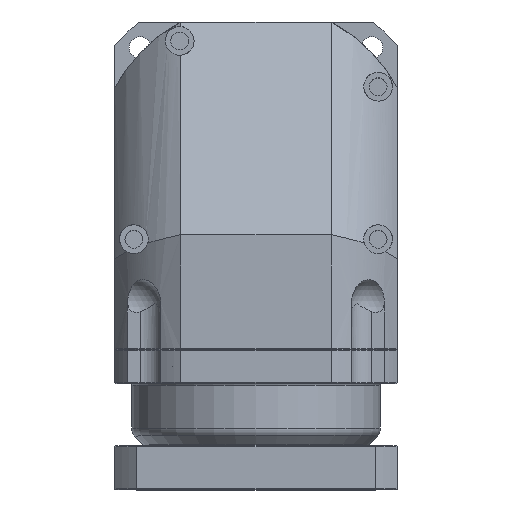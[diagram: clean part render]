
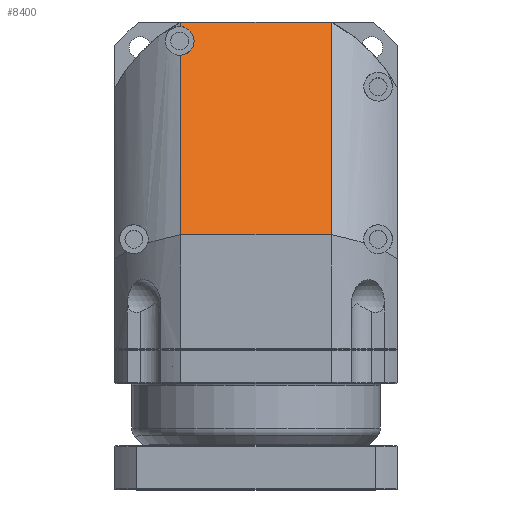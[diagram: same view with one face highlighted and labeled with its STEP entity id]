
A CAD part, top view. The second image highlights one B-rep face of the part: STEP entity #8400.
In plain terms, the highlighted planar face has unit normal (0, 0.643, 0.766) as drawn and (-0.766, -0.643, 0) by its records, which use the part's own axes.
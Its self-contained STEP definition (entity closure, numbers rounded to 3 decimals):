
#4108=CARTESIAN_POINT('',(19.,-71.,37.937));
#4506=DIRECTION('',(0.,0.,-1.));
#4507=VECTOR('',#4506,75.875);
#4508=CARTESIAN_POINT('',(19.,-71.,37.937));
#4509=LINE('',#4508,#4507);
#4510=CARTESIAN_POINT('',(4.945,-54.25,37.937));
#4511=CARTESIAN_POINT('',(4.96,-54.268,37.655));
#4512=CARTESIAN_POINT('',(4.992,-54.306,37.386));
#4513=CARTESIAN_POINT('',(5.055,-54.381,36.931));
#4514=CARTESIAN_POINT('',(5.134,-54.476,36.548));
#4515=CARTESIAN_POINT('',(5.229,-54.589,36.167));
#4516=CARTESIAN_POINT('',(5.356,-54.739,35.744));
#4517=CARTESIAN_POINT('',(5.514,-54.928,35.309));
#4518=CARTESIAN_POINT('',(5.703,-55.154,34.874));
#4519=CARTESIAN_POINT('',(5.893,-55.38,34.499));
#4520=CARTESIAN_POINT('',(6.146,-55.681,34.059));
#4521=CARTESIAN_POINT('',(6.462,-56.058,33.594));
#4522=CARTESIAN_POINT('',(6.842,-56.51,33.132));
#4523=CARTESIAN_POINT('',(7.221,-56.962,32.742));
#4524=CARTESIAN_POINT('',(7.6,-57.414,32.41));
#4525=CARTESIAN_POINT('',(8.106,-58.017,32.035));
#4526=CARTESIAN_POINT('',(8.738,-58.771,31.672));
#4527=CARTESIAN_POINT('',(9.497,-59.675,31.378));
#4528=CARTESIAN_POINT('',(10.256,-60.579,31.207));
#4529=CARTESIAN_POINT('',(11.015,-61.483,31.15));
#4530=CARTESIAN_POINT('',(11.773,-62.388,31.207));
#4531=CARTESIAN_POINT('',(12.532,-63.292,31.378));
#4532=CARTESIAN_POINT('',(13.291,-64.196,31.672));
#4533=CARTESIAN_POINT('',(13.923,-64.95,32.035));
#4534=CARTESIAN_POINT('',(14.429,-65.553,32.41));
#4535=CARTESIAN_POINT('',(14.808,-66.005,32.742));
#4536=CARTESIAN_POINT('',(15.188,-66.457,33.132));
#4537=CARTESIAN_POINT('',(15.567,-66.909,33.594));
#4538=CARTESIAN_POINT('',(15.883,-67.286,34.059));
#4539=CARTESIAN_POINT('',(16.136,-67.587,34.499));
#4540=CARTESIAN_POINT('',(16.326,-67.813,34.874));
#4541=CARTESIAN_POINT('',(16.516,-68.039,35.309));
#4542=CARTESIAN_POINT('',(16.674,-68.228,35.744));
#4543=CARTESIAN_POINT('',(16.8,-68.378,36.167));
#4544=CARTESIAN_POINT('',(16.895,-68.491,36.548));
#4545=CARTESIAN_POINT('',(16.974,-68.586,36.931));
#4546=CARTESIAN_POINT('',(17.037,-68.661,37.386));
#4547=CARTESIAN_POINT('',(17.069,-68.699,37.655));
#4548=CARTESIAN_POINT('',(17.085,-68.717,37.937));
#4550=DIRECTION('',(0.643,-0.766,0.));
#4551=VECTOR('',#4550,2.98);
#4552=CARTESIAN_POINT('',(17.085,-68.717,37.937));
#4553=LINE('',#4552,#4551);
#4554=DIRECTION('',(-0.643,0.766,0.));
#4555=VECTOR('',#4554,140.015);
#4556=CARTESIAN_POINT('',(19.,-71.,-37.937));
#4557=LINE('',#4556,#4555);
#4558=DIRECTION('',(0.643,-0.766,0.));
#4559=VECTOR('',#4558,118.149);
#4560=CARTESIAN_POINT('',(-71.,36.258,37.937));
#4561=LINE('',#4560,#4559);
#5323=DIRECTION('',(0.,0.,1.));
#5324=VECTOR('',#5323,75.875);
#5325=CARTESIAN_POINT('',(-71.,36.258,-37.937));
#5326=LINE('',#5325,#5324);
#6702=VERTEX_POINT('',#4510);
#6703=VERTEX_POINT('',#4548);
#6744=VERTEX_POINT('',#4108);
#6749=CARTESIAN_POINT('',(19.,-71.,-37.937));
#6750=CARTESIAN_POINT('',(-71.,36.258,-37.937));
#6751=VERTEX_POINT('',#6749);
#6752=VERTEX_POINT('',#6750);
#6753=CARTESIAN_POINT('',(-71.,36.258,37.937));
#6754=VERTEX_POINT('',#6753);
#8382=CARTESIAN_POINT('',(19.,-71.,99.));
#8383=DIRECTION('',(0.766,0.643,0.));
#8384=DIRECTION('',(-0.643,0.766,0.));
#8385=AXIS2_PLACEMENT_3D('',#8382,#8383,#8384);
#8386=PLANE('',#8385);
#8388=ORIENTED_EDGE('',*,*,#8387,.T.);
#8390=ORIENTED_EDGE('',*,*,#8389,.T.);
#8391=ORIENTED_EDGE('',*,*,#8375,.T.);
#8393=ORIENTED_EDGE('',*,*,#8392,.T.);
#8395=ORIENTED_EDGE('',*,*,#8394,.T.);
#8397=ORIENTED_EDGE('',*,*,#8396,.T.);
#8398=EDGE_LOOP('',(#8388,#8390,#8391,#8393,#8395,#8397));
#8399=FACE_OUTER_BOUND('',#8398,.F.);
#8400=ADVANCED_FACE('',(#8399),#8386,.F.);
#4549=B_SPLINE_CURVE_WITH_KNOTS('',3,(#4510,#4511,#4512,#4513,#4514,#4515,#4516,
#4517,#4518,#4519,#4520,#4521,#4522,#4523,#4524,#4525,#4526,#4527,#4528,#4529,
#4530,#4531,#4532,#4533,#4534,#4535,#4536,#4537,#4538,#4539,#4540,#4541,#4542,
#4543,#4544,#4545,#4546,#4547,#4548),.UNSPECIFIED.,.F.,.F.,(4,1,1,1,1,1,1,1,1,1,
1,1,1,1,1,1,1,1,1,1,1,1,1,1,1,1,1,1,1,1,1,1,1,1,1,1,4),(0.,0.004,
0.008,0.016,0.023,0.031,0.047,0.063,0.078,0.094,
0.125,0.156,0.188,0.219,0.25,0.313,0.375,0.438,0.5,
0.563,0.625,0.688,0.75,0.781,0.813,0.844,0.875,0.906,
0.922,0.938,0.953,0.969,0.977,0.984,0.992,
0.996,1.),.UNSPECIFIED.);
#8375=EDGE_CURVE('',#6744,#6751,#4509,.T.);
#8387=EDGE_CURVE('',#6702,#6703,#4549,.T.);
#8389=EDGE_CURVE('',#6703,#6744,#4553,.T.);
#8392=EDGE_CURVE('',#6751,#6752,#4557,.T.);
#8394=EDGE_CURVE('',#6752,#6754,#5326,.T.);
#8396=EDGE_CURVE('',#6754,#6702,#4561,.T.);
